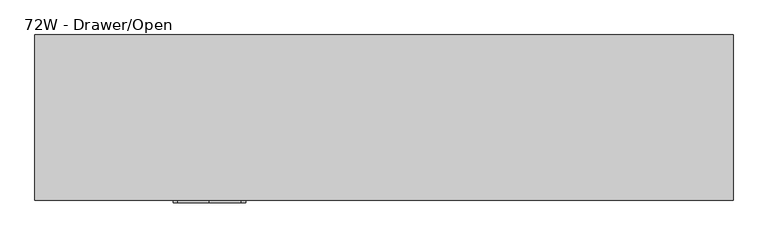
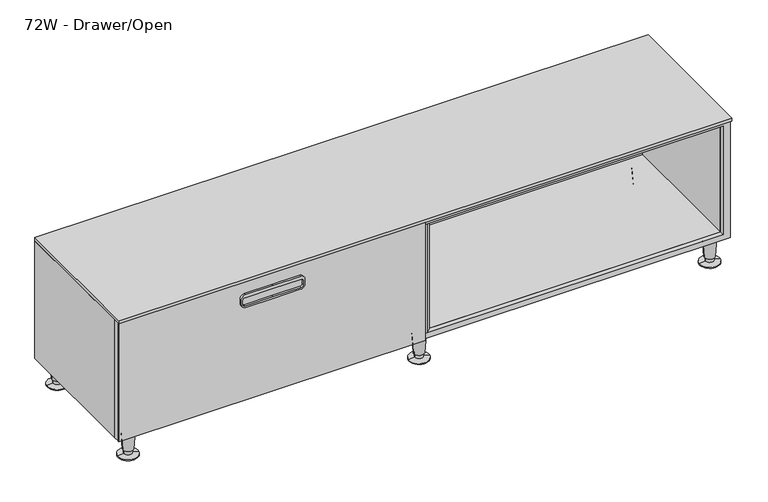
"""IFC4 building model written with IfcOpenShell, lengths in millimetres: furniture geometry, Steelcase - C Scape - Low Storage - 1 High - 60W and 72W : 72W - Drawer/Open."""

from ifc_helpers import new_model, si_unit, point, frame, frame_2d, origin, place, context, project, spatial, polyline, circle_curve, trimmed, segment, composite_curve, outline, extrude, faceted_brep, source, transform, mapped, element, save
from ifc_brep_helpers import plane_surface, cylinder_surface, revolved_surface, advanced_brep


def furniture_72w_drawer_open_8ce804ba(model_context):
    return source(origin(), model_context, "Body", "SolidModel", [
        extrude(outline(polyline([(447.0400097, 1522.73), (447.0400097, -305.435), (76.2, -305.435), (76.2, 1522.73), (447.0400097, 1522.73)]), holes=[polyline([(436.118, 1501.3917676), (92.7100024, 1501.3917676), (92.7100024, -283.4630912), (436.118, -283.4630912), (436.118, 1501.3917676)])]), frame((0.0, -426.7186111, 0.0), z_axis=(0.0, 1.0, 0.0), x_axis=(0.0, 0.0, 1.0)), (0.0, 0.0, 1.0), 14.3975487),
        faceted_brep([(-283.4630912, -412.3210624, 92.7100024), (586.4224874, -412.3210624, 92.7100024), (586.4224874, -9.525, 92.7100024), (-283.4630912, -9.525, 92.7100024), (631.5075126, -412.3210624, 92.7100024), (1501.3917676, -412.3210624, 92.7100024), (1501.3917676, -9.525, 92.7100024), (631.5075126, -9.525, 92.7100024), (-305.435, 0.0, 76.2), (1523.365, 0.0, 76.2), (1523.365, -412.3210624, 76.2), (-305.435, -412.3210624, 76.2), (-305.435, -412.3210624, 447.0400097), (-305.435, 0.0, 447.0400097), (1523.365, -412.3210624, 447.0400097), (1501.3917676, -412.3210624, 447.0400097), (-283.4630912, -412.3210624, 447.0400097), (1523.365, 0.0, 447.0400097), (-283.4630912, -9.525, 447.0400097), (586.4224874, -9.525, 447.0400097), (586.4224874, -415.2912402, 447.0400097), (600.0410976, -426.7186111, 447.0400097), (617.8889024, -426.7186111, 447.0400097), (631.5075126, -415.2912402, 447.0400097), (631.5075126, -9.525, 447.0400097), (1501.3917676, -9.525, 447.0400097), (586.4224874, -415.2912402, 92.7100024), (600.0410976, -426.7186111, 92.7100024), (617.8889024, -426.7186111, 92.7100024), (631.5075126, -415.2912402, 92.7100024)], [[[0, 1, 2, 3]], [[4, 5, 6, 7]], [[8, 9, 10, 11]], [[8, 11, 12, 13]], [[12, 11, 10, 14, 15, 5, 4, 1, 0, 16]], [[14, 10, 9, 17]], [[17, 9, 8, 13]], [[13, 12, 16, 18, 19, 20, 21, 22, 23, 24, 25, 15, 14, 17]], [[18, 16, 0, 3]], [[19, 18, 3, 2]], [[20, 19, 2, 1, 26]], [[21, 20, 26, 27]], [[23, 22, 28, 29]], [[24, 23, 29, 4, 7]], [[25, 24, 7, 6]], [[15, 25, 6, 5]], [[29, 28, 27, 26, 1, 4]], [[22, 21, 27, 28]]]),
        extrude(outline(composite_curve([segment(polyline([(412.7499879, 233.6804108), (412.7499879, 151.447655), (412.7499879, 69.2148993)]), True, "CONTINUOUS"), segment(trimmed(circle_curve(frame_2d((400.0499879, 69.2148993)), 12.7), [point((412.7499879, 69.2148993))], [point((400.0499879, 56.5148993))], False, "CARTESIAN"), True, "CONTINUOUS"), segment(polyline([(400.0499879, 56.5148993), (385.445017, 56.5148993)]), True, "CONTINUOUS"), segment(trimmed(circle_curve(frame_2d((385.445017, 69.2148993)), 12.7), [point((385.445017, 56.5148993))], [point((372.745017, 69.2148993))], False, "CARTESIAN"), True, "CONTINUOUS"), segment(polyline([(372.745017, 69.2148993), (372.745017, 151.447655), (372.745017, 233.6804108)]), True, "CONTINUOUS"), segment(trimmed(circle_curve(frame_2d((385.445017, 233.6804108)), 12.7), [point((372.745017, 233.6804108))], [point((385.445017, 246.3804108))], False, "CARTESIAN"), True, "CONTINUOUS"), segment(polyline([(385.445017, 246.3804108), (400.0499879, 246.3804108)]), True, "CONTINUOUS"), segment(trimmed(circle_curve(frame_2d((400.0499879, 233.6804108)), 12.7), [point((400.0499879, 246.3804108))], [point((412.7499879, 233.6804108))], False, "CARTESIAN"), True, "CONTINUOUS")], self_intersect=False), holes=[composite_curve([segment(polyline([(396.6210063, 241.5527985), (383.9209942, 241.5527985)]), True, "CONTINUOUS"), segment(trimmed(circle_curve(frame_2d((383.9209942, 235.2027985)), 6.35), [point((383.9209942, 241.5527985))], [point((377.5709942, 235.2027985))], True, "CARTESIAN"), True, "CONTINUOUS"), segment(polyline([(377.5709942, 235.2027985), (377.5709942, 151.447655), (377.5709942, 67.6925116)]), True, "CONTINUOUS"), segment(trimmed(circle_curve(frame_2d((383.9209942, 67.6925116)), 6.35), [point((377.5709942, 67.6925116))], [point((383.9209942, 61.3425116))], True, "CARTESIAN"), True, "CONTINUOUS"), segment(polyline([(383.9209942, 61.3425116), (396.6210063, 61.3425116)]), True, "CONTINUOUS"), segment(trimmed(circle_curve(frame_2d((396.6210063, 67.6925116)), 6.35), [point((396.6210063, 61.3425116))], [point((402.9710063, 67.6925116))], True, "CARTESIAN"), True, "CONTINUOUS"), segment(polyline([(402.9710063, 67.6925116), (402.9710063, 151.447655), (402.9710063, 235.2027985)]), True, "CONTINUOUS"), segment(trimmed(circle_curve(frame_2d((396.6210063, 235.2027985)), 6.35), [point((402.9710063, 235.2027985))], [point((396.6210063, 241.5527985))], True, "CARTESIAN"), True, "CONTINUOUS")], self_intersect=False)]), frame((0.0, -439.42, 0.0), z_axis=(0.0, 1.0, 0.0), x_axis=(0.0, 0.0, 1.0)), (0.0, 0.0, 1.0), 6.35),
        extrude(outline(polyline([(608.3303101, -426.7186111), (608.3303101, -433.07), (-305.435, -433.07), (-305.435, -426.7186111), (608.3303101, -426.7186111)])), frame((0.0, 0.0, 76.2), z_axis=(0.0, 0.0, 1.0), x_axis=(1.0, 0.0, 0.0)), (0.0, 0.0, 1.0), 370.8400097),
        advanced_brep(
        [(579.8539515, -29.9489775, 0.0), (638.0760485, -38.8569507, 0.0), (608.965, -34.4029641, 0.0), (579.8539515, -29.9489775, 2.5119506), (638.0760485, -38.8569507, 2.5119506), (597.202835, -32.6033544, 5.7545598), (620.727165, -36.2025738, 5.7545598), (596.5140655, -32.4979728, 19.05), (621.4159345, -36.3079555, 19.05), (594.0844786, -32.1262463, 19.05), (623.8455214, -36.6796819, 19.05), (590.1341305, -31.5218435, 76.2), (627.7958695, -37.2840847, 76.2), (608.965, -34.4029641, 76.2)],
        [
            (0, 1, circle_curve(frame((608.965, -34.4029641, 0.0), z_axis=(0.0, 0.0, -1.0), x_axis=(0.0, -1.0, 0.0)), 29.4498071)),
            (1, 2),
            (2, 0),
            (1, 0, circle_curve(frame((608.965, -34.4029641, 0.0), z_axis=(0.0, 0.0, -1.0), x_axis=(0.0, -1.0, 0.0)), 29.4498071)),
            (3, 4, circle_curve(frame((608.965, -34.4029641, 2.5119506), z_axis=(0.0, 0.0, -1.0), x_axis=(0.0, -1.0, 0.0)), 29.4498071)),
            (4, 1),
            (0, 3),
            (4, 3, circle_curve(frame((608.965, -34.4029641, 2.5119506), z_axis=(0.0, 0.0, -1.0), x_axis=(0.0, -1.0, 0.0)), 29.4498071)),
            (5, 6, circle_curve(frame((608.965, -34.4029641, 5.7545598), z_axis=(0.0, 0.0, -1.0), x_axis=(0.0, -1.0, 0.0)), 11.8990387)),
            (6, 4),
            (3, 5),
            (6, 5, circle_curve(frame((608.965, -34.4029641, 5.7545598), z_axis=(0.0, 0.0, -1.0), x_axis=(0.0, -1.0, 0.0)), 11.8990387)),
            (7, 8, circle_curve(frame((608.965, -34.4029641, 19.05), z_axis=(0.0, 0.0, -1.0), x_axis=(0.0, -1.0, 0.0)), 12.5958232)),
            (8, 6),
            (5, 7),
            (8, 7, circle_curve(frame((608.965, -34.4029641, 19.05), z_axis=(0.0, 0.0, -1.0), x_axis=(0.0, -1.0, 0.0)), 12.5958232)),
            (9, 10, circle_curve(frame((608.965, -34.4029641, 19.05), z_axis=(0.0, 0.0, -1.0), x_axis=(0.0, -1.0, 0.0)), 15.0536827)),
            (10, 8),
            (7, 9),
            (10, 9, circle_curve(frame((608.965, -34.4029641, 19.05), z_axis=(0.0, 0.0, -1.0), x_axis=(0.0, -1.0, 0.0)), 15.0536827)),
            (11, 12, circle_curve(frame((608.965, -34.4029641, 76.2), z_axis=(0.0, 0.0, -1.0), x_axis=(0.0, -1.0, 0.0)), 19.05)),
            (12, 10),
            (9, 11),
            (12, 11, circle_curve(frame((608.965, -34.4029641, 76.2), z_axis=(0.0, 0.0, -1.0), x_axis=(0.0, -1.0, 0.0)), 19.05)),
            (13, 12),
            (11, 13),
        ],
        [
            plane_surface(frame((608.965, -34.4029641, 0.0), z_axis=(0.0, 0.0, -1.0), x_axis=(0.0, -1.0, 0.0))),
            cylinder_surface(frame((608.965, -34.4029641, 25.4), z_axis=(0.0, 0.0, 1.0), x_axis=(0.0, -1.0, 0.0)), 29.4498071),
            revolved_surface(polyline([(608.965, -63.8527712, 2.5119506), (608.965, -46.3020028, 5.7545598)]), (608.965, -34.4029641, 25.4), (0.0, 0.0, 1.0)),
            revolved_surface(polyline([(608.965, -46.3020028, 5.7545598), (608.965, -46.9987873, 19.05)]), (608.965, -34.4029641, 25.4), (0.0, 0.0, 1.0)),
            plane_surface(frame((608.965, -34.4029641, 19.05), z_axis=(0.0, 0.0, -1.0), x_axis=(0.0, -1.0, 0.0))),
            revolved_surface(polyline([(608.965, -49.4566468, 19.05), (608.965, -53.4529641, 76.2)]), (608.965, -34.4029641, 25.4), (0.0, 0.0, 1.0)),
            plane_surface(frame((608.965, -34.4029641, 76.2), z_axis=(0.0, 0.0, 1.0), x_axis=(0.0, -1.0, 0.0))),
        ],
        [
            (0, [[1, 2, 3]]),
            (0, [[4, -3, -2]]),
            (1, [[5, 6, -1, 7]]),
            (1, [[8, -7, -4, -6]]),
            (2, [[9, 10, -5, 11]]),
            (2, [[12, -11, -8, -10]]),
            (3, [[13, 14, -9, 15]]),
            (3, [[16, -15, -12, -14]]),
            (4, [[17, 18, -13, 19]]),
            (4, [[20, -19, -16, -18]]),
            (5, [[21, 22, -17, 23]]),
            (5, [[24, -23, -20, -22]]),
            (6, [[25, -21, 26]]),
            (6, [[-26, -24, -25]]),
        ],
    ),
        advanced_brep(
        [(579.8539515, -395.5974102, 0.0), (638.0760485, -404.5053834, 0.0), (608.965, -400.0513968, 0.0), (579.8539515, -395.5974102, 2.5119506), (638.0760485, -404.5053834, 2.5119506), (597.202835, -398.2517871, 5.7545598), (620.727165, -401.8510065, 5.7545598), (596.5140655, -398.1464055, 19.05), (621.4159345, -401.9563882, 19.05), (594.0844786, -397.774679, 19.05), (623.8455214, -402.3281146, 19.05), (590.1341305, -397.1702762, 76.2), (627.7958695, -402.9325174, 76.2), (608.965, -400.0513968, 76.2)],
        [
            (0, 1, circle_curve(frame((608.965, -400.0513968, 0.0), z_axis=(0.0, 0.0, -1.0), x_axis=(0.0, -1.0, 0.0)), 29.4498071)),
            (1, 2),
            (2, 0),
            (1, 0, circle_curve(frame((608.965, -400.0513968, 0.0), z_axis=(0.0, 0.0, -1.0), x_axis=(0.0, -1.0, 0.0)), 29.4498071)),
            (3, 4, circle_curve(frame((608.965, -400.0513968, 2.5119506), z_axis=(0.0, 0.0, -1.0), x_axis=(0.0, -1.0, 0.0)), 29.4498071)),
            (4, 1),
            (0, 3),
            (4, 3, circle_curve(frame((608.965, -400.0513968, 2.5119506), z_axis=(0.0, 0.0, -1.0), x_axis=(0.0, -1.0, 0.0)), 29.4498071)),
            (5, 6, circle_curve(frame((608.965, -400.0513968, 5.7545598), z_axis=(0.0, 0.0, -1.0), x_axis=(0.0, -1.0, 0.0)), 11.8990387)),
            (6, 4),
            (3, 5),
            (6, 5, circle_curve(frame((608.965, -400.0513968, 5.7545598), z_axis=(0.0, 0.0, -1.0), x_axis=(0.0, -1.0, 0.0)), 11.8990387)),
            (7, 8, circle_curve(frame((608.965, -400.0513968, 19.05), z_axis=(0.0, 0.0, -1.0), x_axis=(0.0, -1.0, 0.0)), 12.5958232)),
            (8, 6),
            (5, 7),
            (8, 7, circle_curve(frame((608.965, -400.0513968, 19.05), z_axis=(0.0, 0.0, -1.0), x_axis=(0.0, -1.0, 0.0)), 12.5958232)),
            (9, 10, circle_curve(frame((608.965, -400.0513968, 19.05), z_axis=(0.0, 0.0, -1.0), x_axis=(0.0, -1.0, 0.0)), 15.0536827)),
            (10, 8),
            (7, 9),
            (10, 9, circle_curve(frame((608.965, -400.0513968, 19.05), z_axis=(0.0, 0.0, -1.0), x_axis=(0.0, -1.0, 0.0)), 15.0536827)),
            (11, 12, circle_curve(frame((608.965, -400.0513968, 76.2), z_axis=(0.0, 0.0, -1.0), x_axis=(0.0, -1.0, 0.0)), 19.05)),
            (12, 10),
            (9, 11),
            (12, 11, circle_curve(frame((608.965, -400.0513968, 76.2), z_axis=(0.0, 0.0, -1.0), x_axis=(0.0, -1.0, 0.0)), 19.05)),
            (13, 12),
            (11, 13),
        ],
        [
            plane_surface(frame((608.965, -400.0513968, 0.0), z_axis=(0.0, 0.0, -1.0), x_axis=(0.0, -1.0, 0.0))),
            cylinder_surface(frame((608.965, -400.0513968, 25.4), z_axis=(0.0, 0.0, 1.0), x_axis=(0.0, -1.0, 0.0)), 29.4498071),
            revolved_surface(polyline([(608.965, -429.5012039, 2.5119506), (608.965, -411.9504355, 5.7545598)]), (608.965, -400.0513968, 25.4), (0.0, 0.0, 1.0)),
            revolved_surface(polyline([(608.965, -411.9504355, 5.7545598), (608.965, -412.64722, 19.05)]), (608.965, -400.0513968, 25.4), (0.0, 0.0, 1.0)),
            plane_surface(frame((608.965, -400.0513968, 19.05), z_axis=(0.0, 0.0, -1.0), x_axis=(0.0, -1.0, 0.0))),
            revolved_surface(polyline([(608.965, -415.1050795, 19.05), (608.965, -419.1013968, 76.2)]), (608.965, -400.0513968, 25.4), (0.0, 0.0, 1.0)),
            plane_surface(frame((608.965, -400.0513968, 76.2), z_axis=(0.0, 0.0, 1.0), x_axis=(0.0, -1.0, 0.0))),
        ],
        [
            (0, [[1, 2, 3]]),
            (0, [[4, -3, -2]]),
            (1, [[5, 6, -1, 7]]),
            (1, [[8, -7, -4, -6]]),
            (2, [[9, 10, -5, 11]]),
            (2, [[12, -11, -8, -10]]),
            (3, [[13, 14, -9, 15]]),
            (3, [[16, -15, -12, -14]]),
            (4, [[17, 18, -13, 19]]),
            (4, [[20, -19, -16, -18]]),
            (5, [[21, 22, -17, 23]]),
            (5, [[24, -23, -20, -22]]),
            (6, [[25, -21, 26]]),
            (6, [[-26, -24, -25]]),
        ],
    ),
        advanced_brep(
        [(1446.9075389, -29.9489775, 0.0), (1505.1296359, -38.8569507, 0.0), (1476.0185874, -34.4029641, 0.0), (1446.9075389, -29.9489775, 2.5119506), (1505.1296359, -38.8569507, 2.5119506), (1464.2564224, -32.6033544, 5.7545598), (1487.7807524, -36.2025738, 5.7545598), (1463.5676529, -32.4979728, 19.05), (1488.4695219, -36.3079555, 19.05), (1461.1380659, -32.1262463, 19.05), (1490.8991088, -36.6796819, 19.05), (1457.1877179, -31.5218435, 76.2), (1494.8494568, -37.2840847, 76.2), (1476.0185874, -34.4029641, 76.2)],
        [
            (0, 1, circle_curve(frame((1476.0185874, -34.4029641, 0.0), z_axis=(0.0, 0.0, -1.0), x_axis=(0.0, -1.0, 0.0)), 29.4498071)),
            (1, 2),
            (2, 0),
            (1, 0, circle_curve(frame((1476.0185874, -34.4029641, 0.0), z_axis=(0.0, 0.0, -1.0), x_axis=(0.0, -1.0, 0.0)), 29.4498071)),
            (3, 4, circle_curve(frame((1476.0185874, -34.4029641, 2.5119506), z_axis=(0.0, 0.0, -1.0), x_axis=(0.0, -1.0, 0.0)), 29.4498071)),
            (4, 1),
            (0, 3),
            (4, 3, circle_curve(frame((1476.0185874, -34.4029641, 2.5119506), z_axis=(0.0, 0.0, -1.0), x_axis=(0.0, -1.0, 0.0)), 29.4498071)),
            (5, 6, circle_curve(frame((1476.0185874, -34.4029641, 5.7545598), z_axis=(0.0, 0.0, -1.0), x_axis=(0.0, -1.0, 0.0)), 11.8990387)),
            (6, 4),
            (3, 5),
            (6, 5, circle_curve(frame((1476.0185874, -34.4029641, 5.7545598), z_axis=(0.0, 0.0, -1.0), x_axis=(0.0, -1.0, 0.0)), 11.8990387)),
            (7, 8, circle_curve(frame((1476.0185874, -34.4029641, 19.05), z_axis=(0.0, 0.0, -1.0), x_axis=(0.0, -1.0, 0.0)), 12.5958232)),
            (8, 6),
            (5, 7),
            (8, 7, circle_curve(frame((1476.0185874, -34.4029641, 19.05), z_axis=(0.0, 0.0, -1.0), x_axis=(0.0, -1.0, 0.0)), 12.5958232)),
            (9, 10, circle_curve(frame((1476.0185874, -34.4029641, 19.05), z_axis=(0.0, 0.0, -1.0), x_axis=(0.0, -1.0, 0.0)), 15.0536827)),
            (10, 8),
            (7, 9),
            (10, 9, circle_curve(frame((1476.0185874, -34.4029641, 19.05), z_axis=(0.0, 0.0, -1.0), x_axis=(0.0, -1.0, 0.0)), 15.0536827)),
            (11, 12, circle_curve(frame((1476.0185874, -34.4029641, 76.2), z_axis=(0.0, 0.0, -1.0), x_axis=(0.0, -1.0, 0.0)), 19.05)),
            (12, 10),
            (9, 11),
            (12, 11, circle_curve(frame((1476.0185874, -34.4029641, 76.2), z_axis=(0.0, 0.0, -1.0), x_axis=(0.0, -1.0, 0.0)), 19.05)),
            (13, 12),
            (11, 13),
        ],
        [
            plane_surface(frame((1476.0185874, -34.4029641, 0.0), z_axis=(0.0, 0.0, -1.0), x_axis=(0.0, -1.0, 0.0))),
            cylinder_surface(frame((1476.0185874, -34.4029641, 25.4), z_axis=(0.0, 0.0, 1.0), x_axis=(0.0, -1.0, 0.0)), 29.4498071),
            revolved_surface(polyline([(1476.0185874, -63.8527712, 2.5119506), (1476.0185874, -46.3020028, 5.7545598)]), (1476.0185874, -34.4029641, 25.4), (0.0, 0.0, 1.0)),
            revolved_surface(polyline([(1476.0185874, -46.3020028, 5.7545598), (1476.0185874, -46.9987873, 19.05)]), (1476.0185874, -34.4029641, 25.4), (0.0, 0.0, 1.0)),
            plane_surface(frame((1476.0185874, -34.4029641, 19.05), z_axis=(0.0, 0.0, -1.0), x_axis=(0.0, -1.0, 0.0))),
            revolved_surface(polyline([(1476.0185874, -49.4566468, 19.05), (1476.0185874, -53.4529641, 76.2)]), (1476.0185874, -34.4029641, 25.4), (0.0, 0.0, 1.0)),
            plane_surface(frame((1476.0185874, -34.4029641, 76.2), z_axis=(0.0, 0.0, 1.0), x_axis=(0.0, -1.0, 0.0))),
        ],
        [
            (0, [[1, 2, 3]]),
            (0, [[4, -3, -2]]),
            (1, [[5, 6, -1, 7]]),
            (1, [[8, -7, -4, -6]]),
            (2, [[9, 10, -5, 11]]),
            (2, [[12, -11, -8, -10]]),
            (3, [[13, 14, -9, 15]]),
            (3, [[16, -15, -12, -14]]),
            (4, [[17, 18, -13, 19]]),
            (4, [[20, -19, -16, -18]]),
            (5, [[21, 22, -17, 23]]),
            (5, [[24, -23, -20, -22]]),
            (6, [[25, -21, 26]]),
            (6, [[-26, -24, -25]]),
        ],
    ),
        advanced_brep(
        [(1446.9075389, -395.5974102, 0.0), (1505.1296359, -404.5053834, 0.0), (1476.0185874, -400.0513968, 0.0), (1446.9075389, -395.5974102, 2.5119506), (1505.1296359, -404.5053834, 2.5119506), (1464.2564224, -398.2517871, 5.7545598), (1487.7807524, -401.8510065, 5.7545598), (1463.5676529, -398.1464055, 19.05), (1488.4695219, -401.9563882, 19.05), (1461.1380659, -397.774679, 19.05), (1490.8991088, -402.3281146, 19.05), (1457.1877179, -397.1702762, 76.2), (1494.8494568, -402.9325174, 76.2), (1476.0185874, -400.0513968, 76.2)],
        [
            (0, 1, circle_curve(frame((1476.0185874, -400.0513968, 0.0), z_axis=(0.0, 0.0, -1.0), x_axis=(0.0, -1.0, 0.0)), 29.4498071)),
            (1, 2),
            (2, 0),
            (1, 0, circle_curve(frame((1476.0185874, -400.0513968, 0.0), z_axis=(0.0, 0.0, -1.0), x_axis=(0.0, -1.0, 0.0)), 29.4498071)),
            (3, 4, circle_curve(frame((1476.0185874, -400.0513968, 2.5119506), z_axis=(0.0, 0.0, -1.0), x_axis=(0.0, -1.0, 0.0)), 29.4498071)),
            (4, 1),
            (0, 3),
            (4, 3, circle_curve(frame((1476.0185874, -400.0513968, 2.5119506), z_axis=(0.0, 0.0, -1.0), x_axis=(0.0, -1.0, 0.0)), 29.4498071)),
            (5, 6, circle_curve(frame((1476.0185874, -400.0513968, 5.7545598), z_axis=(0.0, 0.0, -1.0), x_axis=(0.0, -1.0, 0.0)), 11.8990387)),
            (6, 4),
            (3, 5),
            (6, 5, circle_curve(frame((1476.0185874, -400.0513968, 5.7545598), z_axis=(0.0, 0.0, -1.0), x_axis=(0.0, -1.0, 0.0)), 11.8990387)),
            (7, 8, circle_curve(frame((1476.0185874, -400.0513968, 19.05), z_axis=(0.0, 0.0, -1.0), x_axis=(0.0, -1.0, 0.0)), 12.5958232)),
            (8, 6),
            (5, 7),
            (8, 7, circle_curve(frame((1476.0185874, -400.0513968, 19.05), z_axis=(0.0, 0.0, -1.0), x_axis=(0.0, -1.0, 0.0)), 12.5958232)),
            (9, 10, circle_curve(frame((1476.0185874, -400.0513968, 19.05), z_axis=(0.0, 0.0, -1.0), x_axis=(0.0, -1.0, 0.0)), 15.0536827)),
            (10, 8),
            (7, 9),
            (10, 9, circle_curve(frame((1476.0185874, -400.0513968, 19.05), z_axis=(0.0, 0.0, -1.0), x_axis=(0.0, -1.0, 0.0)), 15.0536827)),
            (11, 12, circle_curve(frame((1476.0185874, -400.0513968, 76.2), z_axis=(0.0, 0.0, -1.0), x_axis=(0.0, -1.0, 0.0)), 19.05)),
            (12, 10),
            (9, 11),
            (12, 11, circle_curve(frame((1476.0185874, -400.0513968, 76.2), z_axis=(0.0, 0.0, -1.0), x_axis=(0.0, -1.0, 0.0)), 19.05)),
            (13, 12),
            (11, 13),
        ],
        [
            plane_surface(frame((1476.0185874, -400.0513968, 0.0), z_axis=(0.0, 0.0, -1.0), x_axis=(0.0, -1.0, 0.0))),
            cylinder_surface(frame((1476.0185874, -400.0513968, 25.4), z_axis=(0.0, 0.0, 1.0), x_axis=(0.0, -1.0, 0.0)), 29.4498071),
            revolved_surface(polyline([(1476.0185874, -429.5012039, 2.5119506), (1476.0185874, -411.9504355, 5.7545598)]), (1476.0185874, -400.0513968, 25.4), (0.0, 0.0, 1.0)),
            revolved_surface(polyline([(1476.0185874, -411.9504355, 5.7545598), (1476.0185874, -412.64722, 19.05)]), (1476.0185874, -400.0513968, 25.4), (0.0, 0.0, 1.0)),
            plane_surface(frame((1476.0185874, -400.0513968, 19.05), z_axis=(0.0, 0.0, -1.0), x_axis=(0.0, -1.0, 0.0))),
            revolved_surface(polyline([(1476.0185874, -415.1050795, 19.05), (1476.0185874, -419.1013968, 76.2)]), (1476.0185874, -400.0513968, 25.4), (0.0, 0.0, 1.0)),
            plane_surface(frame((1476.0185874, -400.0513968, 76.2), z_axis=(0.0, 0.0, 1.0), x_axis=(0.0, -1.0, 0.0))),
        ],
        [
            (0, [[1, 2, 3]]),
            (0, [[4, -3, -2]]),
            (1, [[5, 6, -1, 7]]),
            (1, [[8, -7, -4, -6]]),
            (2, [[9, 10, -5, 11]]),
            (2, [[12, -11, -8, -10]]),
            (3, [[13, 14, -9, 15]]),
            (3, [[16, -15, -12, -14]]),
            (4, [[17, 18, -13, 19]]),
            (4, [[20, -19, -16, -18]]),
            (5, [[21, 22, -17, 23]]),
            (5, [[24, -23, -20, -22]]),
            (6, [[25, -21, 26]]),
            (6, [[-26, -24, -25]]),
        ],
    ),
        advanced_brep(
        [(-287.8113721, -395.5974102, 0.0), (-229.5892752, -404.5053834, 0.0), (-258.7003237, -400.0513968, 0.0), (-287.8113721, -395.5974102, 2.5119506), (-229.5892752, -404.5053834, 2.5119506), (-270.4624887, -398.2517871, 5.7545598), (-246.9381586, -401.8510065, 5.7545598), (-271.1512581, -398.1464055, 19.05), (-246.2493892, -401.9563882, 19.05), (-273.5808451, -397.774679, 19.05), (-243.8198022, -402.3281146, 19.05), (-277.5311931, -397.1702762, 76.2), (-239.8694542, -402.9325174, 76.2), (-258.7003237, -400.0513968, 76.2)],
        [
            (0, 1, circle_curve(frame((-258.7003237, -400.0513968, 0.0), z_axis=(0.0, 0.0, -1.0), x_axis=(0.0, -1.0, 0.0)), 29.4498071)),
            (1, 2),
            (2, 0),
            (1, 0, circle_curve(frame((-258.7003237, -400.0513968, 0.0), z_axis=(0.0, 0.0, -1.0), x_axis=(0.0, -1.0, 0.0)), 29.4498071)),
            (3, 4, circle_curve(frame((-258.7003237, -400.0513968, 2.5119506), z_axis=(0.0, 0.0, -1.0), x_axis=(0.0, -1.0, 0.0)), 29.4498071)),
            (4, 1),
            (0, 3),
            (4, 3, circle_curve(frame((-258.7003237, -400.0513968, 2.5119506), z_axis=(0.0, 0.0, -1.0), x_axis=(0.0, -1.0, 0.0)), 29.4498071)),
            (5, 6, circle_curve(frame((-258.7003237, -400.0513968, 5.7545598), z_axis=(0.0, 0.0, -1.0), x_axis=(0.0, -1.0, 0.0)), 11.8990387)),
            (6, 4),
            (3, 5),
            (6, 5, circle_curve(frame((-258.7003237, -400.0513968, 5.7545598), z_axis=(0.0, 0.0, -1.0), x_axis=(0.0, -1.0, 0.0)), 11.8990387)),
            (7, 8, circle_curve(frame((-258.7003237, -400.0513968, 19.05), z_axis=(0.0, 0.0, -1.0), x_axis=(0.0, -1.0, 0.0)), 12.5958232)),
            (8, 6),
            (5, 7),
            (8, 7, circle_curve(frame((-258.7003237, -400.0513968, 19.05), z_axis=(0.0, 0.0, -1.0), x_axis=(0.0, -1.0, 0.0)), 12.5958232)),
            (9, 10, circle_curve(frame((-258.7003237, -400.0513968, 19.05), z_axis=(0.0, 0.0, -1.0), x_axis=(0.0, -1.0, 0.0)), 15.0536827)),
            (10, 8),
            (7, 9),
            (10, 9, circle_curve(frame((-258.7003237, -400.0513968, 19.05), z_axis=(0.0, 0.0, -1.0), x_axis=(0.0, -1.0, 0.0)), 15.0536827)),
            (11, 12, circle_curve(frame((-258.7003237, -400.0513968, 76.2), z_axis=(0.0, 0.0, -1.0), x_axis=(0.0, -1.0, 0.0)), 19.05)),
            (12, 10),
            (9, 11),
            (12, 11, circle_curve(frame((-258.7003237, -400.0513968, 76.2), z_axis=(0.0, 0.0, -1.0), x_axis=(0.0, -1.0, 0.0)), 19.05)),
            (13, 12),
            (11, 13),
        ],
        [
            plane_surface(frame((-258.7003237, -400.0513968, 0.0), z_axis=(0.0, 0.0, -1.0), x_axis=(0.0, -1.0, 0.0))),
            cylinder_surface(frame((-258.7003237, -400.0513968, 25.4), z_axis=(0.0, 0.0, 1.0), x_axis=(0.0, -1.0, 0.0)), 29.4498071),
            revolved_surface(polyline([(-258.7003237, -429.5012039, 2.5119506), (-258.7003237, -411.9504355, 5.7545598)]), (-258.7003237, -400.0513968, 25.4), (0.0, 0.0, 1.0)),
            revolved_surface(polyline([(-258.7003237, -411.9504355, 5.7545598), (-258.7003237, -412.64722, 19.05)]), (-258.7003237, -400.0513968, 25.4), (0.0, 0.0, 1.0)),
            plane_surface(frame((-258.7003237, -400.0513968, 19.05), z_axis=(0.0, 0.0, -1.0), x_axis=(0.0, -1.0, 0.0))),
            revolved_surface(polyline([(-258.7003237, -415.1050795, 19.05), (-258.7003237, -419.1013968, 76.2)]), (-258.7003237, -400.0513968, 25.4), (0.0, 0.0, 1.0)),
            plane_surface(frame((-258.7003237, -400.0513968, 76.2), z_axis=(0.0, 0.0, 1.0), x_axis=(0.0, -1.0, 0.0))),
        ],
        [
            (0, [[1, 2, 3]]),
            (0, [[4, -3, -2]]),
            (1, [[5, 6, -1, 7]]),
            (1, [[8, -7, -4, -6]]),
            (2, [[9, 10, -5, 11]]),
            (2, [[12, -11, -8, -10]]),
            (3, [[13, 14, -9, 15]]),
            (3, [[16, -15, -12, -14]]),
            (4, [[17, 18, -13, 19]]),
            (4, [[20, -19, -16, -18]]),
            (5, [[21, 22, -17, 23]]),
            (5, [[24, -23, -20, -22]]),
            (6, [[25, -21, 26]]),
            (6, [[-26, -24, -25]]),
        ],
    ),
        advanced_brep(
        [(-287.8113721, -29.9489775, 0.0), (-229.5892752, -38.8569507, 0.0), (-258.7003237, -34.4029641, 0.0), (-287.8113721, -29.9489775, 2.5119506), (-229.5892752, -38.8569507, 2.5119506), (-270.4624887, -32.6033544, 5.7545598), (-246.9381586, -36.2025738, 5.7545598), (-271.1512581, -32.4979728, 19.05), (-246.2493892, -36.3079555, 19.05), (-273.5808451, -32.1262463, 19.05), (-243.8198022, -36.6796819, 19.05), (-277.5311931, -31.5218435, 76.2), (-239.8694542, -37.2840847, 76.2), (-258.7003237, -34.4029641, 76.2)],
        [
            (0, 1, circle_curve(frame((-258.7003237, -34.4029641, 0.0), z_axis=(0.0, 0.0, -1.0), x_axis=(0.0, -1.0, 0.0)), 29.4498071)),
            (1, 2),
            (2, 0),
            (1, 0, circle_curve(frame((-258.7003237, -34.4029641, 0.0), z_axis=(0.0, 0.0, -1.0), x_axis=(0.0, -1.0, 0.0)), 29.4498071)),
            (3, 4, circle_curve(frame((-258.7003237, -34.4029641, 2.5119506), z_axis=(0.0, 0.0, -1.0), x_axis=(0.0, -1.0, 0.0)), 29.4498071)),
            (4, 1),
            (0, 3),
            (4, 3, circle_curve(frame((-258.7003237, -34.4029641, 2.5119506), z_axis=(0.0, 0.0, -1.0), x_axis=(0.0, -1.0, 0.0)), 29.4498071)),
            (5, 6, circle_curve(frame((-258.7003237, -34.4029641, 5.7545598), z_axis=(0.0, 0.0, -1.0), x_axis=(0.0, -1.0, 0.0)), 11.8990387)),
            (6, 4),
            (3, 5),
            (6, 5, circle_curve(frame((-258.7003237, -34.4029641, 5.7545598), z_axis=(0.0, 0.0, -1.0), x_axis=(0.0, -1.0, 0.0)), 11.8990387)),
            (7, 8, circle_curve(frame((-258.7003237, -34.4029641, 19.05), z_axis=(0.0, 0.0, -1.0), x_axis=(0.0, -1.0, 0.0)), 12.5958232)),
            (8, 6),
            (5, 7),
            (8, 7, circle_curve(frame((-258.7003237, -34.4029641, 19.05), z_axis=(0.0, 0.0, -1.0), x_axis=(0.0, -1.0, 0.0)), 12.5958232)),
            (9, 10, circle_curve(frame((-258.7003237, -34.4029641, 19.05), z_axis=(0.0, 0.0, -1.0), x_axis=(0.0, -1.0, 0.0)), 15.0536827)),
            (10, 8),
            (7, 9),
            (10, 9, circle_curve(frame((-258.7003237, -34.4029641, 19.05), z_axis=(0.0, 0.0, -1.0), x_axis=(0.0, -1.0, 0.0)), 15.0536827)),
            (11, 12, circle_curve(frame((-258.7003237, -34.4029641, 76.2), z_axis=(0.0, 0.0, -1.0), x_axis=(0.0, -1.0, 0.0)), 19.05)),
            (12, 10),
            (9, 11),
            (12, 11, circle_curve(frame((-258.7003237, -34.4029641, 76.2), z_axis=(0.0, 0.0, -1.0), x_axis=(0.0, -1.0, 0.0)), 19.05)),
            (13, 12),
            (11, 13),
        ],
        [
            plane_surface(frame((-258.7003237, -34.4029641, 0.0), z_axis=(0.0, 0.0, -1.0), x_axis=(0.0, -1.0, 0.0))),
            cylinder_surface(frame((-258.7003237, -34.4029641, 25.4), z_axis=(0.0, 0.0, 1.0), x_axis=(0.0, -1.0, 0.0)), 29.4498071),
            revolved_surface(polyline([(-258.7003237, -63.8527712, 2.5119506), (-258.7003237, -46.3020028, 5.7545598)]), (-258.7003237, -34.4029641, 25.4), (0.0, 0.0, 1.0)),
            revolved_surface(polyline([(-258.7003237, -46.3020028, 5.7545598), (-258.7003237, -46.9987873, 19.05)]), (-258.7003237, -34.4029641, 25.4), (0.0, 0.0, 1.0)),
            plane_surface(frame((-258.7003237, -34.4029641, 19.05), z_axis=(0.0, 0.0, -1.0), x_axis=(0.0, -1.0, 0.0))),
            revolved_surface(polyline([(-258.7003237, -49.4566468, 19.05), (-258.7003237, -53.4529641, 76.2)]), (-258.7003237, -34.4029641, 25.4), (0.0, 0.0, 1.0)),
            plane_surface(frame((-258.7003237, -34.4029641, 76.2), z_axis=(0.0, 0.0, 1.0), x_axis=(0.0, -1.0, 0.0))),
        ],
        [
            (0, [[1, 2, 3]]),
            (0, [[4, -3, -2]]),
            (1, [[5, 6, -1, 7]]),
            (1, [[8, -7, -4, -6]]),
            (2, [[9, 10, -5, 11]]),
            (2, [[12, -11, -8, -10]]),
            (3, [[13, 14, -9, 15]]),
            (3, [[16, -15, -12, -14]]),
            (4, [[17, 18, -13, 19]]),
            (4, [[20, -19, -16, -18]]),
            (5, [[21, 22, -17, 23]]),
            (5, [[24, -23, -20, -22]]),
            (6, [[25, -21, 26]]),
            (6, [[-26, -24, -25]]),
        ],
    ),
        extrude(outline(polyline([(-305.435, 0.0), (1523.365, 0.0), (1523.365, -433.07), (-305.435, -433.07), (-305.435, 0.0)])), frame((0.0, 0.0, 447.0400097), z_axis=(0.0, 0.0, 1.0), x_axis=(1.0, 0.0, 0.0)), (0.0, 0.0, 1.0), 10.1599903),
    ])


if __name__ == "__main__":
    model = new_model("IFC4")
    model_context = context("Model", 3, world=origin())
    ifc_project = project(units=[si_unit("LENGTHUNIT", "METRE", prefix="MILLI")], contexts=[model_context])
    site = spatial("IfcSite", under=ifc_project)
    building = spatial("IfcBuilding", under=site)
    placement = place(None, origin())
    furniture_72w_drawer_open_shape = furniture_72w_drawer_open_8ce804ba(model_context)
    element("IfcFurniture", 1, ObjectType="Steelcase - C Scape - Low Storage - 1 High - 60W and 72W : 72W - Drawer/Open", at=placement, inside=building, context=model_context, shape_type="MappedRepresentation", body=[
        mapped(furniture_72w_drawer_open_shape, transform((0.0, 0.0, 0.0), x_axis=(1.0, 0.0, 0.0), y_axis=(0.0, 1.0, 0.0), z_axis=(0.0, 0.0, 1.0))),
    ])
    save(model, "model.ifc")
